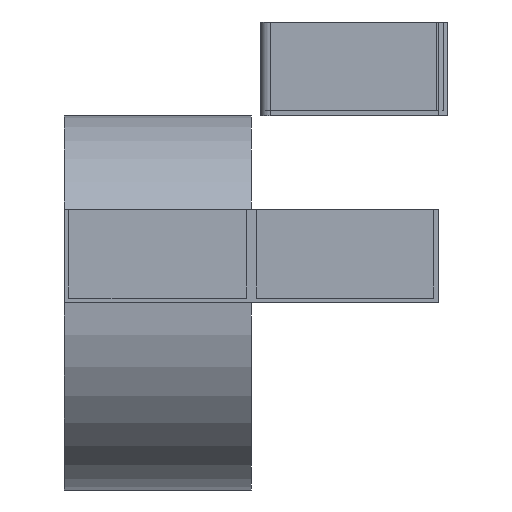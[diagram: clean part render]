
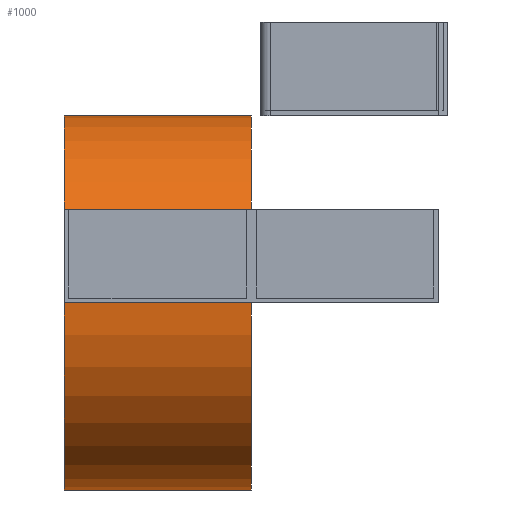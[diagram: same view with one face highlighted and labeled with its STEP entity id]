
A CAD part, left-side view. The second image highlights one B-rep face of the part: STEP entity #1000.
In plain terms, the highlighted cylindrical face has radius 20 mm (diameter 40 mm), a full revolution.
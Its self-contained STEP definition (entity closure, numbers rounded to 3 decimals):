
#30=CYLINDRICAL_SURFACE('',#1116,20.);
#43=CIRCLE('',#1115,20.);
#44=CIRCLE('',#1117,20.);
#198=ORIENTED_EDGE('',*,*,#400,.T.);
#199=ORIENTED_EDGE('',*,*,#399,.F.);
#399=EDGE_CURVE('',#512,#512,#43,.T.);
#400=EDGE_CURVE('',#513,#513,#44,.T.);
#512=VERTEX_POINT('',#1587);
#513=VERTEX_POINT('',#1590);
#827=EDGE_LOOP('',(#198));
#828=EDGE_LOOP('',(#199));
#890=FACE_BOUND('',#827,.T.);
#891=FACE_BOUND('',#828,.T.);
#1000=ADVANCED_FACE('',(#890,#891),#30,.T.);
#1115=AXIS2_PLACEMENT_3D('',#1586,#1301,#1302);
#1116=AXIS2_PLACEMENT_3D('',#1588,#1303,#1304);
#1117=AXIS2_PLACEMENT_3D('',#1589,#1305,#1306);
#1301=DIRECTION('',(0.,-1.,0.));
#1302=DIRECTION('',(0.,0.,-1.));
#1303=DIRECTION('',(0.,-1.,0.));
#1304=DIRECTION('',(0.,0.,-1.));
#1305=DIRECTION('',(0.,-1.,0.));
#1306=DIRECTION('',(0.,0.,-1.));
#1586=CARTESIAN_POINT('',(100.,0.,0.));
#1587=CARTESIAN_POINT('',(100.,0.,-20.));
#1588=CARTESIAN_POINT('',(100.,10.,0.));
#1589=CARTESIAN_POINT('',(100.,20.,0.));
#1590=CARTESIAN_POINT('',(100.,20.,-20.));
